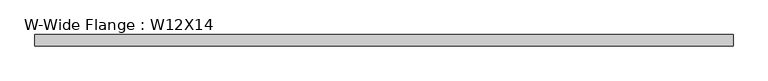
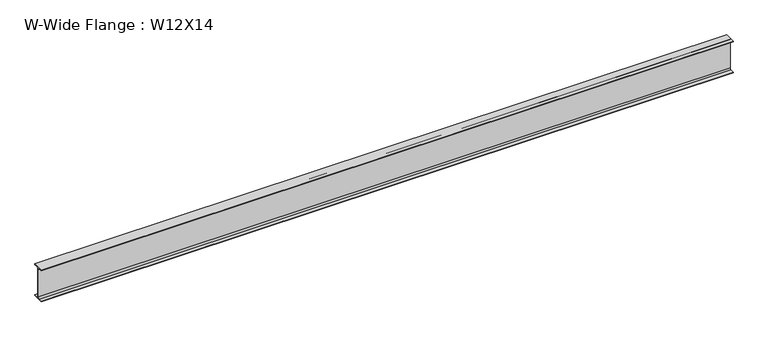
"""IFC4 building model written with IfcOpenShell, lengths in millimetres: beam geometry, W-Wide Flange : W12X14."""

from ifc_helpers import new_model, si_unit, point, frame, frame_2d, origin, place, context, project, spatial, polyline, circle_curve, trimmed, segment, composite_curve, outline, extrude, source, transform, mapped, element, save


def w_wide_flange_w12x14_55fb512f(model_context):
    return source(origin(), model_context, "Body", "SweptSolid", [
        extrude(outline(composite_curve([segment(polyline([(50.419, -145.415), (50.419, -151.13), (-50.419, -151.13), (-50.419, -145.415), (-15.875, -145.415)]), True, "CONTINUOUS"), segment(trimmed(circle_curve(frame_2d((-15.875, -132.08)), 13.335), [point((-15.875, -145.415))], [point((-2.54, -132.08))], True, "CARTESIAN"), True, "CONTINUOUS"), segment(polyline([(-2.54, -132.08), (-2.54, 132.08)]), True, "CONTINUOUS"), segment(trimmed(circle_curve(frame_2d((-15.875, 132.08)), 13.335), [point((-2.54, 132.08))], [point((-15.875, 145.415))], True, "CARTESIAN"), True, "CONTINUOUS"), segment(polyline([(-15.875, 145.415), (-50.419, 145.415), (-50.419, 151.13), (50.419, 151.13), (50.419, 145.415), (15.875, 145.415)]), True, "CONTINUOUS"), segment(trimmed(circle_curve(frame_2d((15.875, 132.08)), 13.335), [point((15.875, 145.415))], [point((2.54, 132.08))], True, "CARTESIAN"), True, "CONTINUOUS"), segment(polyline([(2.54, 132.08), (2.54, -132.08)]), True, "CONTINUOUS"), segment(trimmed(circle_curve(frame_2d((15.875, -132.08)), 13.335), [point((2.54, -132.08))], [point((15.875, -145.415))], True, "CARTESIAN"), True, "CONTINUOUS"), segment(polyline([(15.875, -145.415), (50.419, -145.415)]), True, "CONTINUOUS")], self_intersect=False)), frame((-3100.3875, 0.0, 0.0), z_axis=(1.0, 0.0, 0.0), x_axis=(0.0, 1.0, 0.0)), (0.0, 0.0, 1.0), 6284.9125),
    ])


if __name__ == "__main__":
    model = new_model("IFC4")
    model_context = context("Model", 3, world=origin())
    ifc_project = project(units=[si_unit("LENGTHUNIT", "METRE", prefix="MILLI")], contexts=[model_context])
    site = spatial("IfcSite", under=ifc_project)
    building = spatial("IfcBuilding", under=site)
    placement = place(None, origin())
    w_wide_flange_w12x14_shape = w_wide_flange_w12x14_55fb512f(model_context)
    element("IfcBeam", 1, ObjectType="W-Wide Flange : W12X14", at=placement, inside=building, context=model_context, shape_type="MappedRepresentation", body=[
        mapped(w_wide_flange_w12x14_shape, transform((0.0, 0.0, 0.0), x_axis=(1.0, 0.0, 0.0), y_axis=(0.0, 1.0, 0.0), z_axis=(0.0, 0.0, 1.0))),
    ])
    save(model, "model.ifc")
